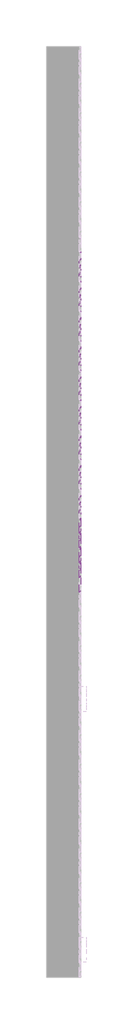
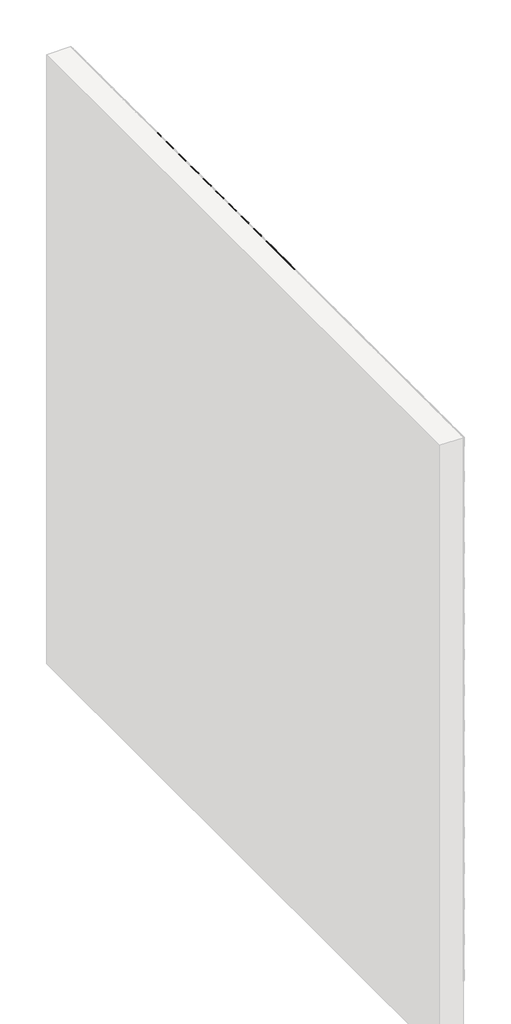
# One storey, part 91 of 121: 144 proxies.
"""IFC4 building model written with IfcOpenShell, lengths in millimetres."""

from ifc_helpers import new_model, si_unit, origin, place, context, project, spatial, transform, mapped, element, save
from components import generic_models_b2b2c5c1, generic_models_9bf73f6f, generic_models_5d175859, generic_models_65d4feed, generic_models_3c364290, generic_models_b652511d

model = new_model("IFC4")

# Units and contexts
model_context = context("Model", 3, world=origin())
ifc_project = project(units=[si_unit("LENGTHUNIT", "METRE", prefix="MILLI")], contexts=[model_context])

# Site, building, storey
site = spatial("IfcSite", under=ifc_project)
building = spatial("IfcBuilding", under=site)
storey = spatial("IfcBuildingStorey", under=building, Name="PORTOBELLO - SHOWROOM", Elevation=0.0)

# Proxies
placement = place(None, origin())
generic_models_shape = generic_models_b2b2c5c1(model_context)
element("IfcBuildingElementProxy", 1, Name="PBSHOP - CUBICA PISTACHE 4,8X8,3 : CUBICA PISTACHE - POSIÇÃO 01", ObjectType="PBSHOP - CUBICA PISTACHE 4,8X8,3 : CUBICA PISTACHE - POSIÇÃO 01", at=placement, inside=storey, context=model_context, shape_type="MappedRepresentation", body=[
    mapped(generic_models_shape, transform((150369.5341846, 14704.1723997, 2407.461318), x_axis=(0.0, 1.0, 0.0), y_axis=(0.0, 0.0, 1.0), z_axis=(1.0, 0.0, 0.0))),
])
element("IfcBuildingElementProxy", 2, Name="PBSHOP - CUBICA PISTACHE 4,8X8,3 : CUBICA PISTACHE - POSIÇÃO 01", ObjectType="PBSHOP - CUBICA PISTACHE 4,8X8,3 : CUBICA PISTACHE - POSIÇÃO 01", at=placement, inside=storey, context=model_context, shape_type="MappedRepresentation", body=[
    mapped(generic_models_shape, transform((150369.5341846, 14795.0116689, 2407.461318), x_axis=(0.0, 1.0, 0.0), y_axis=(0.0, 0.0, 1.0), z_axis=(1.0, 0.0, 0.0))),
])
element("IfcBuildingElementProxy", 3, Name="PBSHOP - CUBICA PISTACHE 4,8X8,3 : CUBICA PISTACHE - POSIÇÃO 01", ObjectType="PBSHOP - CUBICA PISTACHE 4,8X8,3 : CUBICA PISTACHE - POSIÇÃO 01", at=placement, inside=storey, context=model_context, shape_type="MappedRepresentation", body=[
    mapped(generic_models_shape, transform((150369.5341846, 14885.8509382, 2407.461318), x_axis=(0.0, 1.0, 0.0), y_axis=(0.0, 0.0, 1.0), z_axis=(1.0, 0.0, 0.0))),
])
element("IfcBuildingElementProxy", 4, Name="PBSHOP - CUBICA PISTACHE 4,8X8,3 : CUBICA PISTACHE - POSIÇÃO 01", ObjectType="PBSHOP - CUBICA PISTACHE 4,8X8,3 : CUBICA PISTACHE - POSIÇÃO 01", at=placement, inside=storey, context=model_context, shape_type="MappedRepresentation", body=[
    mapped(generic_models_shape, transform((150369.5341846, 14976.6902074, 2407.461318), x_axis=(0.0, 1.0, 0.0), y_axis=(0.0, 0.0, 1.0), z_axis=(1.0, 0.0, 0.0))),
])
element("IfcBuildingElementProxy", 5, Name="PBSHOP - CUBICA PISTACHE 4,8X8,3 : CUBICA PISTACHE - POSIÇÃO 01", ObjectType="PBSHOP - CUBICA PISTACHE 4,8X8,3 : CUBICA PISTACHE - POSIÇÃO 01", at=placement, inside=storey, context=model_context, shape_type="MappedRepresentation", body=[
    mapped(generic_models_shape, transform((150369.5341846, 14022.8778804, 2486.3959564), x_axis=(0.0, 1.0, 0.0), y_axis=(0.0, 0.0, 1.0), z_axis=(1.0, 0.0, 0.0))),
])
element("IfcBuildingElementProxy", 6, Name="PBSHOP - CUBICA PISTACHE 4,8X8,3 : CUBICA PISTACHE - POSIÇÃO 01", ObjectType="PBSHOP - CUBICA PISTACHE 4,8X8,3 : CUBICA PISTACHE - POSIÇÃO 01", at=placement, inside=storey, context=model_context, shape_type="MappedRepresentation", body=[
    mapped(generic_models_shape, transform((150369.5341846, 14113.7171496, 2486.3959564), x_axis=(0.0, 1.0, 0.0), y_axis=(0.0, 0.0, 1.0), z_axis=(1.0, 0.0, 0.0))),
])
element("IfcBuildingElementProxy", 7, Name="PBSHOP - CUBICA PISTACHE 4,8X8,3 : CUBICA PISTACHE - POSIÇÃO 01", ObjectType="PBSHOP - CUBICA PISTACHE 4,8X8,3 : CUBICA PISTACHE - POSIÇÃO 01", at=placement, inside=storey, context=model_context, shape_type="MappedRepresentation", body=[
    mapped(generic_models_shape, transform((150369.5341846, 14204.5564189, 2486.3959564), x_axis=(0.0, 1.0, 0.0), y_axis=(0.0, 0.0, 1.0), z_axis=(1.0, 0.0, 0.0))),
])
element("IfcBuildingElementProxy", 8, Name="PBSHOP - CUBICA PISTACHE 4,8X8,3 : CUBICA PISTACHE - POSIÇÃO 01", ObjectType="PBSHOP - CUBICA PISTACHE 4,8X8,3 : CUBICA PISTACHE - POSIÇÃO 01", at=placement, inside=storey, context=model_context, shape_type="MappedRepresentation", body=[
    mapped(generic_models_shape, transform((150369.5341846, 14295.3956881, 2486.3959564), x_axis=(0.0, 1.0, 0.0), y_axis=(0.0, 0.0, 1.0), z_axis=(1.0, 0.0, 0.0))),
])
element("IfcBuildingElementProxy", 9, Name="PBSHOP - CUBICA PISTACHE 4,8X8,3 : CUBICA PISTACHE - POSIÇÃO 01", ObjectType="PBSHOP - CUBICA PISTACHE 4,8X8,3 : CUBICA PISTACHE - POSIÇÃO 01", at=placement, inside=storey, context=model_context, shape_type="MappedRepresentation", body=[
    mapped(generic_models_shape, transform((150369.5341846, 14386.2349573, 2486.3959564), x_axis=(0.0, 1.0, 0.0), y_axis=(0.0, 0.0, 1.0), z_axis=(1.0, 0.0, 0.0))),
])
element("IfcBuildingElementProxy", 10, Name="PBSHOP - CUBICA PISTACHE 4,8X8,3 : CUBICA PISTACHE - POSIÇÃO 01", ObjectType="PBSHOP - CUBICA PISTACHE 4,8X8,3 : CUBICA PISTACHE - POSIÇÃO 01", at=placement, inside=storey, context=model_context, shape_type="MappedRepresentation", body=[
    mapped(generic_models_shape, transform((150369.5341846, 14477.0742266, 2486.3959564), x_axis=(0.0, 1.0, 0.0), y_axis=(0.0, 0.0, 1.0), z_axis=(1.0, 0.0, 0.0))),
])
element("IfcBuildingElementProxy", 11, Name="PBSHOP - CUBICA PISTACHE 4,8X8,3 : CUBICA PISTACHE - POSIÇÃO 01", ObjectType="PBSHOP - CUBICA PISTACHE 4,8X8,3 : CUBICA PISTACHE - POSIÇÃO 01", at=placement, inside=storey, context=model_context, shape_type="MappedRepresentation", body=[
    mapped(generic_models_shape, transform((150369.5341846, 14567.9134958, 2486.3959564), x_axis=(0.0, 1.0, 0.0), y_axis=(0.0, 0.0, 1.0), z_axis=(1.0, 0.0, 0.0))),
])
element("IfcBuildingElementProxy", 12, Name="PBSHOP - CUBICA PISTACHE 4,8X8,3 : CUBICA PISTACHE - POSIÇÃO 01", ObjectType="PBSHOP - CUBICA PISTACHE 4,8X8,3 : CUBICA PISTACHE - POSIÇÃO 01", at=placement, inside=storey, context=model_context, shape_type="MappedRepresentation", body=[
    mapped(generic_models_shape, transform((150369.5341846, 14658.7527651, 2486.3959564), x_axis=(0.0, 1.0, 0.0), y_axis=(0.0, 0.0, 1.0), z_axis=(1.0, 0.0, 0.0))),
])
element("IfcBuildingElementProxy", 13, Name="PBSHOP - CUBICA PISTACHE 4,8X8,3 : CUBICA PISTACHE - POSIÇÃO 01", ObjectType="PBSHOP - CUBICA PISTACHE 4,8X8,3 : CUBICA PISTACHE - POSIÇÃO 01", at=placement, inside=storey, context=model_context, shape_type="MappedRepresentation", body=[
    mapped(generic_models_shape, transform((150369.5341846, 14749.5920343, 2486.3959564), x_axis=(0.0, 1.0, 0.0), y_axis=(0.0, 0.0, 1.0), z_axis=(1.0, 0.0, 0.0))),
])
element("IfcBuildingElementProxy", 14, Name="PBSHOP - CUBICA PISTACHE 4,8X8,3 : CUBICA PISTACHE - POSIÇÃO 01", ObjectType="PBSHOP - CUBICA PISTACHE 4,8X8,3 : CUBICA PISTACHE - POSIÇÃO 01", at=placement, inside=storey, context=model_context, shape_type="MappedRepresentation", body=[
    mapped(generic_models_shape, transform((150369.5341846, 14840.4313036, 2486.3959564), x_axis=(0.0, 1.0, 0.0), y_axis=(0.0, 0.0, 1.0), z_axis=(1.0, 0.0, 0.0))),
])
element("IfcBuildingElementProxy", 15, Name="PBSHOP - CUBICA PISTACHE 4,8X8,3 : CUBICA PISTACHE - POSIÇÃO 01", ObjectType="PBSHOP - CUBICA PISTACHE 4,8X8,3 : CUBICA PISTACHE - POSIÇÃO 01", at=placement, inside=storey, context=model_context, shape_type="MappedRepresentation", body=[
    mapped(generic_models_shape, transform((150369.5341846, 14931.2705728, 2486.3959564), x_axis=(0.0, 1.0, 0.0), y_axis=(0.0, 0.0, 1.0), z_axis=(1.0, 0.0, 0.0))),
])
element("IfcBuildingElementProxy", 16, Name="PBSHOP - CUBICA PISTACHE 4,8X8,3 : CUBICA PISTACHE - POSIÇÃO 01", ObjectType="PBSHOP - CUBICA PISTACHE 4,8X8,3 : CUBICA PISTACHE - POSIÇÃO 01", at=placement, inside=storey, context=model_context, shape_type="MappedRepresentation", body=[
    mapped(generic_models_shape, transform((150369.5341846, 14068.297515, 2565.3305948), x_axis=(0.0, 1.0, 0.0), y_axis=(0.0, 0.0, 1.0), z_axis=(1.0, 0.0, 0.0))),
])
element("IfcBuildingElementProxy", 17, Name="PBSHOP - CUBICA PISTACHE 4,8X8,3 : CUBICA PISTACHE - POSIÇÃO 01", ObjectType="PBSHOP - CUBICA PISTACHE 4,8X8,3 : CUBICA PISTACHE - POSIÇÃO 01", at=placement, inside=storey, context=model_context, shape_type="MappedRepresentation", body=[
    mapped(generic_models_shape, transform((150369.5341846, 14159.1367842, 2565.3305948), x_axis=(0.0, 1.0, 0.0), y_axis=(0.0, 0.0, 1.0), z_axis=(1.0, 0.0, 0.0))),
])
element("IfcBuildingElementProxy", 18, Name="PBSHOP - CUBICA PISTACHE 4,8X8,3 : CUBICA PISTACHE - POSIÇÃO 01", ObjectType="PBSHOP - CUBICA PISTACHE 4,8X8,3 : CUBICA PISTACHE - POSIÇÃO 01", at=placement, inside=storey, context=model_context, shape_type="MappedRepresentation", body=[
    mapped(generic_models_shape, transform((150369.5341846, 14249.9760535, 2565.3305948), x_axis=(0.0, 1.0, 0.0), y_axis=(0.0, 0.0, 1.0), z_axis=(1.0, 0.0, 0.0))),
])
element("IfcBuildingElementProxy", 19, Name="PBSHOP - CUBICA PISTACHE 4,8X8,3 : CUBICA PISTACHE - POSIÇÃO 01", ObjectType="PBSHOP - CUBICA PISTACHE 4,8X8,3 : CUBICA PISTACHE - POSIÇÃO 01", at=placement, inside=storey, context=model_context, shape_type="MappedRepresentation", body=[
    mapped(generic_models_shape, transform((150369.5341846, 14340.8153227, 2565.3305948), x_axis=(0.0, 1.0, 0.0), y_axis=(0.0, 0.0, 1.0), z_axis=(1.0, 0.0, 0.0))),
])
element("IfcBuildingElementProxy", 20, Name="PBSHOP - CUBICA PISTACHE 4,8X8,3 : CUBICA PISTACHE - POSIÇÃO 01", ObjectType="PBSHOP - CUBICA PISTACHE 4,8X8,3 : CUBICA PISTACHE - POSIÇÃO 01", at=placement, inside=storey, context=model_context, shape_type="MappedRepresentation", body=[
    mapped(generic_models_shape, transform((150369.5341846, 14431.654592, 2565.3305948), x_axis=(0.0, 1.0, 0.0), y_axis=(0.0, 0.0, 1.0), z_axis=(1.0, 0.0, 0.0))),
])
element("IfcBuildingElementProxy", 21, Name="PBSHOP - CUBICA PISTACHE 4,8X8,3 : CUBICA PISTACHE - POSIÇÃO 01", ObjectType="PBSHOP - CUBICA PISTACHE 4,8X8,3 : CUBICA PISTACHE - POSIÇÃO 01", at=placement, inside=storey, context=model_context, shape_type="MappedRepresentation", body=[
    mapped(generic_models_shape, transform((150369.5341846, 14522.4938612, 2565.3305948), x_axis=(0.0, 1.0, 0.0), y_axis=(0.0, 0.0, 1.0), z_axis=(1.0, 0.0, 0.0))),
])
element("IfcBuildingElementProxy", 22, Name="PBSHOP - CUBICA PISTACHE 4,8X8,3 : CUBICA PISTACHE - POSIÇÃO 01", ObjectType="PBSHOP - CUBICA PISTACHE 4,8X8,3 : CUBICA PISTACHE - POSIÇÃO 01", at=placement, inside=storey, context=model_context, shape_type="MappedRepresentation", body=[
    mapped(generic_models_shape, transform((150369.5341846, 14613.3331304, 2565.3305948), x_axis=(0.0, 1.0, 0.0), y_axis=(0.0, 0.0, 1.0), z_axis=(1.0, 0.0, 0.0))),
])
element("IfcBuildingElementProxy", 23, Name="PBSHOP - CUBICA PISTACHE 4,8X8,3 : CUBICA PISTACHE - POSIÇÃO 01", ObjectType="PBSHOP - CUBICA PISTACHE 4,8X8,3 : CUBICA PISTACHE - POSIÇÃO 01", at=placement, inside=storey, context=model_context, shape_type="MappedRepresentation", body=[
    mapped(generic_models_shape, transform((150369.5341846, 14704.1723997, 2565.3305948), x_axis=(0.0, 1.0, 0.0), y_axis=(0.0, 0.0, 1.0), z_axis=(1.0, 0.0, 0.0))),
])
element("IfcBuildingElementProxy", 24, Name="PBSHOP - CUBICA PISTACHE 4,8X8,3 : CUBICA PISTACHE - POSIÇÃO 01", ObjectType="PBSHOP - CUBICA PISTACHE 4,8X8,3 : CUBICA PISTACHE - POSIÇÃO 01", at=placement, inside=storey, context=model_context, shape_type="MappedRepresentation", body=[
    mapped(generic_models_shape, transform((150369.5341846, 14795.0116689, 2565.3305948), x_axis=(0.0, 1.0, 0.0), y_axis=(0.0, 0.0, 1.0), z_axis=(1.0, 0.0, 0.0))),
])
element("IfcBuildingElementProxy", 25, Name="PBSHOP - CUBICA PISTACHE 4,8X8,3 : CUBICA PISTACHE - POSIÇÃO 01", ObjectType="PBSHOP - CUBICA PISTACHE 4,8X8,3 : CUBICA PISTACHE - POSIÇÃO 01", at=placement, inside=storey, context=model_context, shape_type="MappedRepresentation", body=[
    mapped(generic_models_shape, transform((150369.5341846, 14885.8509382, 2565.3305948), x_axis=(0.0, 1.0, 0.0), y_axis=(0.0, 0.0, 1.0), z_axis=(1.0, 0.0, 0.0))),
])
element("IfcBuildingElementProxy", 26, Name="PBSHOP - CUBICA PISTACHE 4,8X8,3 : CUBICA PISTACHE - POSIÇÃO 01", ObjectType="PBSHOP - CUBICA PISTACHE 4,8X8,3 : CUBICA PISTACHE - POSIÇÃO 01", at=placement, inside=storey, context=model_context, shape_type="MappedRepresentation", body=[
    mapped(generic_models_shape, transform((150369.5341846, 14976.6902074, 2565.3305948), x_axis=(0.0, 1.0, 0.0), y_axis=(0.0, 0.0, 1.0), z_axis=(1.0, 0.0, 0.0))),
])
element("IfcBuildingElementProxy", 27, Name="PBSHOP - CUBICA PISTACHE 4,8X8,3 : CUBICA PISTACHE - POSIÇÃO 01", ObjectType="PBSHOP - CUBICA PISTACHE 4,8X8,3 : CUBICA PISTACHE - POSIÇÃO 01", at=placement, inside=storey, context=model_context, shape_type="MappedRepresentation", body=[
    mapped(generic_models_shape, transform((150369.5341846, 14022.8778804, 2644.2652332), x_axis=(0.0, 1.0, 0.0), y_axis=(0.0, 0.0, 1.0), z_axis=(1.0, 0.0, 0.0))),
])
element("IfcBuildingElementProxy", 28, Name="PBSHOP - CUBICA PISTACHE 4,8X8,3 : CUBICA PISTACHE - POSIÇÃO 01", ObjectType="PBSHOP - CUBICA PISTACHE 4,8X8,3 : CUBICA PISTACHE - POSIÇÃO 01", at=placement, inside=storey, context=model_context, shape_type="MappedRepresentation", body=[
    mapped(generic_models_shape, transform((150369.5341846, 14113.7171496, 2644.2652332), x_axis=(0.0, 1.0, 0.0), y_axis=(0.0, 0.0, 1.0), z_axis=(1.0, 0.0, 0.0))),
])
element("IfcBuildingElementProxy", 29, Name="PBSHOP - CUBICA PISTACHE 4,8X8,3 : CUBICA PISTACHE - POSIÇÃO 01", ObjectType="PBSHOP - CUBICA PISTACHE 4,8X8,3 : CUBICA PISTACHE - POSIÇÃO 01", at=placement, inside=storey, context=model_context, shape_type="MappedRepresentation", body=[
    mapped(generic_models_shape, transform((150369.5341846, 14204.5564189, 2644.2652332), x_axis=(0.0, 1.0, 0.0), y_axis=(0.0, 0.0, 1.0), z_axis=(1.0, 0.0, 0.0))),
])
element("IfcBuildingElementProxy", 30, Name="PBSHOP - CUBICA PISTACHE 4,8X8,3 : CUBICA PISTACHE - POSIÇÃO 01", ObjectType="PBSHOP - CUBICA PISTACHE 4,8X8,3 : CUBICA PISTACHE - POSIÇÃO 01", at=placement, inside=storey, context=model_context, shape_type="MappedRepresentation", body=[
    mapped(generic_models_shape, transform((150369.5341846, 14295.3956881, 2644.2652332), x_axis=(0.0, 1.0, 0.0), y_axis=(0.0, 0.0, 1.0), z_axis=(1.0, 0.0, 0.0))),
])
element("IfcBuildingElementProxy", 31, Name="PBSHOP - CUBICA PISTACHE 4,8X8,3 : CUBICA PISTACHE - POSIÇÃO 01", ObjectType="PBSHOP - CUBICA PISTACHE 4,8X8,3 : CUBICA PISTACHE - POSIÇÃO 01", at=placement, inside=storey, context=model_context, shape_type="MappedRepresentation", body=[
    mapped(generic_models_shape, transform((150369.5341846, 14386.2349573, 2644.2652332), x_axis=(0.0, 1.0, 0.0), y_axis=(0.0, 0.0, 1.0), z_axis=(1.0, 0.0, 0.0))),
])
element("IfcBuildingElementProxy", 32, Name="PBSHOP - CUBICA PISTACHE 4,8X8,3 : CUBICA PISTACHE - POSIÇÃO 01", ObjectType="PBSHOP - CUBICA PISTACHE 4,8X8,3 : CUBICA PISTACHE - POSIÇÃO 01", at=placement, inside=storey, context=model_context, shape_type="MappedRepresentation", body=[
    mapped(generic_models_shape, transform((150369.5341846, 14477.0742266, 2644.2652332), x_axis=(0.0, 1.0, 0.0), y_axis=(0.0, 0.0, 1.0), z_axis=(1.0, 0.0, 0.0))),
])
element("IfcBuildingElementProxy", 33, Name="PBSHOP - CUBICA PISTACHE 4,8X8,3 : CUBICA PISTACHE - POSIÇÃO 01", ObjectType="PBSHOP - CUBICA PISTACHE 4,8X8,3 : CUBICA PISTACHE - POSIÇÃO 01", at=placement, inside=storey, context=model_context, shape_type="MappedRepresentation", body=[
    mapped(generic_models_shape, transform((150369.5341846, 14567.9134958, 2644.2652332), x_axis=(0.0, 1.0, 0.0), y_axis=(0.0, 0.0, 1.0), z_axis=(1.0, 0.0, 0.0))),
])
element("IfcBuildingElementProxy", 34, Name="PBSHOP - CUBICA PISTACHE 4,8X8,3 : CUBICA PISTACHE - POSIÇÃO 01", ObjectType="PBSHOP - CUBICA PISTACHE 4,8X8,3 : CUBICA PISTACHE - POSIÇÃO 01", at=placement, inside=storey, context=model_context, shape_type="MappedRepresentation", body=[
    mapped(generic_models_shape, transform((150369.5341846, 14658.7527651, 2644.2652332), x_axis=(0.0, 1.0, 0.0), y_axis=(0.0, 0.0, 1.0), z_axis=(1.0, 0.0, 0.0))),
])
element("IfcBuildingElementProxy", 35, Name="PBSHOP - CUBICA PISTACHE 4,8X8,3 : CUBICA PISTACHE - POSIÇÃO 01", ObjectType="PBSHOP - CUBICA PISTACHE 4,8X8,3 : CUBICA PISTACHE - POSIÇÃO 01", at=placement, inside=storey, context=model_context, shape_type="MappedRepresentation", body=[
    mapped(generic_models_shape, transform((150369.5341846, 14749.5920343, 2644.2652332), x_axis=(0.0, 1.0, 0.0), y_axis=(0.0, 0.0, 1.0), z_axis=(1.0, 0.0, 0.0))),
])
element("IfcBuildingElementProxy", 36, Name="PBSHOP - CUBICA PISTACHE 4,8X8,3 : CUBICA PISTACHE - POSIÇÃO 01", ObjectType="PBSHOP - CUBICA PISTACHE 4,8X8,3 : CUBICA PISTACHE - POSIÇÃO 01", at=placement, inside=storey, context=model_context, shape_type="MappedRepresentation", body=[
    mapped(generic_models_shape, transform((150369.5341846, 14840.4313036, 2644.2652332), x_axis=(0.0, 1.0, 0.0), y_axis=(0.0, 0.0, 1.0), z_axis=(1.0, 0.0, 0.0))),
])
element("IfcBuildingElementProxy", 37, Name="PBSHOP - CUBICA PISTACHE 4,8X8,3 : CUBICA PISTACHE - POSIÇÃO 01", ObjectType="PBSHOP - CUBICA PISTACHE 4,8X8,3 : CUBICA PISTACHE - POSIÇÃO 01", at=placement, inside=storey, context=model_context, shape_type="MappedRepresentation", body=[
    mapped(generic_models_shape, transform((150369.5341846, 14931.2705728, 2644.2652332), x_axis=(0.0, 1.0, 0.0), y_axis=(0.0, 0.0, 1.0), z_axis=(1.0, 0.0, 0.0))),
])
generic_models_2_shape = generic_models_9bf73f6f(model_context)
element("IfcBuildingElementProxy", 38, Name="PBSHOP - CUBICA PISTACHE 4,8X8,3 : CUBICA PISTACHE - POSIÇÃO 03", ObjectType="PBSHOP - CUBICA PISTACHE 4,8X8,3 : CUBICA PISTACHE - POSIÇÃO 03", at=placement, inside=storey, context=model_context, shape_type="MappedRepresentation", body=[
    mapped(generic_models_2_shape, transform((150369.5341846, 14045.5898568, 2367.9527884), x_axis=(0.0, 1.0, 0.0), y_axis=(0.0, 0.0, 1.0), z_axis=(1.0, 0.0, 0.0))),
])
element("IfcBuildingElementProxy", 39, Name="PBSHOP - CUBICA PISTACHE 4,8X8,3 : CUBICA PISTACHE - POSIÇÃO 03", ObjectType="PBSHOP - CUBICA PISTACHE 4,8X8,3 : CUBICA PISTACHE - POSIÇÃO 03", at=placement, inside=storey, context=model_context, shape_type="MappedRepresentation", body=[
    mapped(generic_models_2_shape, transform((150369.5341846, 14136.4291261, 2367.9527884), x_axis=(0.0, 1.0, 0.0), y_axis=(0.0, 0.0, 1.0), z_axis=(1.0, 0.0, 0.0))),
])
element("IfcBuildingElementProxy", 40, Name="PBSHOP - CUBICA PISTACHE 4,8X8,3 : CUBICA PISTACHE - POSIÇÃO 03", ObjectType="PBSHOP - CUBICA PISTACHE 4,8X8,3 : CUBICA PISTACHE - POSIÇÃO 03", at=placement, inside=storey, context=model_context, shape_type="MappedRepresentation", body=[
    mapped(generic_models_2_shape, transform((150369.5341846, 14227.2683953, 2367.9527884), x_axis=(0.0, 1.0, 0.0), y_axis=(0.0, 0.0, 1.0), z_axis=(1.0, 0.0, 0.0))),
])
element("IfcBuildingElementProxy", 41, Name="PBSHOP - CUBICA PISTACHE 4,8X8,3 : CUBICA PISTACHE - POSIÇÃO 03", ObjectType="PBSHOP - CUBICA PISTACHE 4,8X8,3 : CUBICA PISTACHE - POSIÇÃO 03", at=placement, inside=storey, context=model_context, shape_type="MappedRepresentation", body=[
    mapped(generic_models_2_shape, transform((150369.5341846, 14318.1076646, 2367.9527884), x_axis=(0.0, 1.0, 0.0), y_axis=(0.0, 0.0, 1.0), z_axis=(1.0, 0.0, 0.0))),
])
element("IfcBuildingElementProxy", 42, Name="PBSHOP - CUBICA PISTACHE 4,8X8,3 : CUBICA PISTACHE - POSIÇÃO 03", ObjectType="PBSHOP - CUBICA PISTACHE 4,8X8,3 : CUBICA PISTACHE - POSIÇÃO 03", at=placement, inside=storey, context=model_context, shape_type="MappedRepresentation", body=[
    mapped(generic_models_2_shape, transform((150369.5341846, 14408.9469338, 2367.9527884), x_axis=(0.0, 1.0, 0.0), y_axis=(0.0, 0.0, 1.0), z_axis=(1.0, 0.0, 0.0))),
])
element("IfcBuildingElementProxy", 43, Name="PBSHOP - CUBICA PISTACHE 4,8X8,3 : CUBICA PISTACHE - POSIÇÃO 03", ObjectType="PBSHOP - CUBICA PISTACHE 4,8X8,3 : CUBICA PISTACHE - POSIÇÃO 03", at=placement, inside=storey, context=model_context, shape_type="MappedRepresentation", body=[
    mapped(generic_models_2_shape, transform((150369.5341846, 14499.7862031, 2367.9527884), x_axis=(0.0, 1.0, 0.0), y_axis=(0.0, 0.0, 1.0), z_axis=(1.0, 0.0, 0.0))),
])
element("IfcBuildingElementProxy", 44, Name="PBSHOP - CUBICA PISTACHE 4,8X8,3 : CUBICA PISTACHE - POSIÇÃO 03", ObjectType="PBSHOP - CUBICA PISTACHE 4,8X8,3 : CUBICA PISTACHE - POSIÇÃO 03", at=placement, inside=storey, context=model_context, shape_type="MappedRepresentation", body=[
    mapped(generic_models_2_shape, transform((150369.5341846, 14590.6254723, 2367.9527884), x_axis=(0.0, 1.0, 0.0), y_axis=(0.0, 0.0, 1.0), z_axis=(1.0, 0.0, 0.0))),
])
element("IfcBuildingElementProxy", 45, Name="PBSHOP - CUBICA PISTACHE 4,8X8,3 : CUBICA PISTACHE - POSIÇÃO 03", ObjectType="PBSHOP - CUBICA PISTACHE 4,8X8,3 : CUBICA PISTACHE - POSIÇÃO 03", at=placement, inside=storey, context=model_context, shape_type="MappedRepresentation", body=[
    mapped(generic_models_2_shape, transform((150369.5341846, 14681.4647415, 2367.9527884), x_axis=(0.0, 1.0, 0.0), y_axis=(0.0, 0.0, 1.0), z_axis=(1.0, 0.0, 0.0))),
])
element("IfcBuildingElementProxy", 46, Name="PBSHOP - CUBICA PISTACHE 4,8X8,3 : CUBICA PISTACHE - POSIÇÃO 03", ObjectType="PBSHOP - CUBICA PISTACHE 4,8X8,3 : CUBICA PISTACHE - POSIÇÃO 03", at=placement, inside=storey, context=model_context, shape_type="MappedRepresentation", body=[
    mapped(generic_models_2_shape, transform((150369.5341846, 14772.3040108, 2367.9527884), x_axis=(0.0, 1.0, 0.0), y_axis=(0.0, 0.0, 1.0), z_axis=(1.0, 0.0, 0.0))),
])
element("IfcBuildingElementProxy", 47, Name="PBSHOP - CUBICA PISTACHE 4,8X8,3 : CUBICA PISTACHE - POSIÇÃO 03", ObjectType="PBSHOP - CUBICA PISTACHE 4,8X8,3 : CUBICA PISTACHE - POSIÇÃO 03", at=placement, inside=storey, context=model_context, shape_type="MappedRepresentation", body=[
    mapped(generic_models_2_shape, transform((150369.5341846, 14863.14328, 2367.9527884), x_axis=(0.0, 1.0, 0.0), y_axis=(0.0, 0.0, 1.0), z_axis=(1.0, 0.0, 0.0))),
])
element("IfcBuildingElementProxy", 48, Name="PBSHOP - CUBICA PISTACHE 4,8X8,3 : CUBICA PISTACHE - POSIÇÃO 03", ObjectType="PBSHOP - CUBICA PISTACHE 4,8X8,3 : CUBICA PISTACHE - POSIÇÃO 03", at=placement, inside=storey, context=model_context, shape_type="MappedRepresentation", body=[
    mapped(generic_models_2_shape, transform((150369.5341846, 14953.9825493, 2367.9527884), x_axis=(0.0, 1.0, 0.0), y_axis=(0.0, 0.0, 1.0), z_axis=(1.0, 0.0, 0.0))),
])
element("IfcBuildingElementProxy", 49, Name="PBSHOP - CUBICA PISTACHE 4,8X8,3 : CUBICA PISTACHE - POSIÇÃO 03", ObjectType="PBSHOP - CUBICA PISTACHE 4,8X8,3 : CUBICA PISTACHE - POSIÇÃO 03", at=placement, inside=storey, context=model_context, shape_type="MappedRepresentation", body=[
    mapped(generic_models_2_shape, transform((150369.5341846, 14000.1702222, 2446.8874268), x_axis=(0.0, 1.0, 0.0), y_axis=(0.0, 0.0, 1.0), z_axis=(1.0, 0.0, 0.0))),
])
element("IfcBuildingElementProxy", 50, Name="PBSHOP - CUBICA PISTACHE 4,8X8,3 : CUBICA PISTACHE - POSIÇÃO 03", ObjectType="PBSHOP - CUBICA PISTACHE 4,8X8,3 : CUBICA PISTACHE - POSIÇÃO 03", at=placement, inside=storey, context=model_context, shape_type="MappedRepresentation", body=[
    mapped(generic_models_2_shape, transform((150369.5341846, 14091.0094915, 2446.8874268), x_axis=(0.0, 1.0, 0.0), y_axis=(0.0, 0.0, 1.0), z_axis=(1.0, 0.0, 0.0))),
])
element("IfcBuildingElementProxy", 51, Name="PBSHOP - CUBICA PISTACHE 4,8X8,3 : CUBICA PISTACHE - POSIÇÃO 03", ObjectType="PBSHOP - CUBICA PISTACHE 4,8X8,3 : CUBICA PISTACHE - POSIÇÃO 03", at=placement, inside=storey, context=model_context, shape_type="MappedRepresentation", body=[
    mapped(generic_models_2_shape, transform((150369.5341846, 14181.8487607, 2446.8874268), x_axis=(0.0, 1.0, 0.0), y_axis=(0.0, 0.0, 1.0), z_axis=(1.0, 0.0, 0.0))),
])
element("IfcBuildingElementProxy", 52, Name="PBSHOP - CUBICA PISTACHE 4,8X8,3 : CUBICA PISTACHE - POSIÇÃO 03", ObjectType="PBSHOP - CUBICA PISTACHE 4,8X8,3 : CUBICA PISTACHE - POSIÇÃO 03", at=placement, inside=storey, context=model_context, shape_type="MappedRepresentation", body=[
    mapped(generic_models_2_shape, transform((150369.5341846, 14272.6880299, 2446.8874268), x_axis=(0.0, 1.0, 0.0), y_axis=(0.0, 0.0, 1.0), z_axis=(1.0, 0.0, 0.0))),
])
element("IfcBuildingElementProxy", 53, Name="PBSHOP - CUBICA PISTACHE 4,8X8,3 : CUBICA PISTACHE - POSIÇÃO 03", ObjectType="PBSHOP - CUBICA PISTACHE 4,8X8,3 : CUBICA PISTACHE - POSIÇÃO 03", at=placement, inside=storey, context=model_context, shape_type="MappedRepresentation", body=[
    mapped(generic_models_2_shape, transform((150369.5341846, 14363.5272992, 2446.8874268), x_axis=(0.0, 1.0, 0.0), y_axis=(0.0, 0.0, 1.0), z_axis=(1.0, 0.0, 0.0))),
])
element("IfcBuildingElementProxy", 54, Name="PBSHOP - CUBICA PISTACHE 4,8X8,3 : CUBICA PISTACHE - POSIÇÃO 03", ObjectType="PBSHOP - CUBICA PISTACHE 4,8X8,3 : CUBICA PISTACHE - POSIÇÃO 03", at=placement, inside=storey, context=model_context, shape_type="MappedRepresentation", body=[
    mapped(generic_models_2_shape, transform((150369.5341846, 14454.3665684, 2446.8874268), x_axis=(0.0, 1.0, 0.0), y_axis=(0.0, 0.0, 1.0), z_axis=(1.0, 0.0, 0.0))),
])
element("IfcBuildingElementProxy", 55, Name="PBSHOP - CUBICA PISTACHE 4,8X8,3 : CUBICA PISTACHE - POSIÇÃO 03", ObjectType="PBSHOP - CUBICA PISTACHE 4,8X8,3 : CUBICA PISTACHE - POSIÇÃO 03", at=placement, inside=storey, context=model_context, shape_type="MappedRepresentation", body=[
    mapped(generic_models_2_shape, transform((150369.5341846, 14545.2058377, 2446.8874268), x_axis=(0.0, 1.0, 0.0), y_axis=(0.0, 0.0, 1.0), z_axis=(1.0, 0.0, 0.0))),
])
element("IfcBuildingElementProxy", 56, Name="PBSHOP - CUBICA PISTACHE 4,8X8,3 : CUBICA PISTACHE - POSIÇÃO 03", ObjectType="PBSHOP - CUBICA PISTACHE 4,8X8,3 : CUBICA PISTACHE - POSIÇÃO 03", at=placement, inside=storey, context=model_context, shape_type="MappedRepresentation", body=[
    mapped(generic_models_2_shape, transform((150369.5341846, 14636.0451069, 2446.8874268), x_axis=(0.0, 1.0, 0.0), y_axis=(0.0, 0.0, 1.0), z_axis=(1.0, 0.0, 0.0))),
])
element("IfcBuildingElementProxy", 57, Name="PBSHOP - CUBICA PISTACHE 4,8X8,3 : CUBICA PISTACHE - POSIÇÃO 03", ObjectType="PBSHOP - CUBICA PISTACHE 4,8X8,3 : CUBICA PISTACHE - POSIÇÃO 03", at=placement, inside=storey, context=model_context, shape_type="MappedRepresentation", body=[
    mapped(generic_models_2_shape, transform((150369.5341846, 14726.8843762, 2446.8874268), x_axis=(0.0, 1.0, 0.0), y_axis=(0.0, 0.0, 1.0), z_axis=(1.0, 0.0, 0.0))),
])
element("IfcBuildingElementProxy", 58, Name="PBSHOP - CUBICA PISTACHE 4,8X8,3 : CUBICA PISTACHE - POSIÇÃO 03", ObjectType="PBSHOP - CUBICA PISTACHE 4,8X8,3 : CUBICA PISTACHE - POSIÇÃO 03", at=placement, inside=storey, context=model_context, shape_type="MappedRepresentation", body=[
    mapped(generic_models_2_shape, transform((150369.5341846, 14817.7236454, 2446.8874268), x_axis=(0.0, 1.0, 0.0), y_axis=(0.0, 0.0, 1.0), z_axis=(1.0, 0.0, 0.0))),
])
element("IfcBuildingElementProxy", 59, Name="PBSHOP - CUBICA PISTACHE 4,8X8,3 : CUBICA PISTACHE - POSIÇÃO 03", ObjectType="PBSHOP - CUBICA PISTACHE 4,8X8,3 : CUBICA PISTACHE - POSIÇÃO 03", at=placement, inside=storey, context=model_context, shape_type="MappedRepresentation", body=[
    mapped(generic_models_2_shape, transform((150369.5341846, 14908.5629147, 2446.8874268), x_axis=(0.0, 1.0, 0.0), y_axis=(0.0, 0.0, 1.0), z_axis=(1.0, 0.0, 0.0))),
])
element("IfcBuildingElementProxy", 60, Name="PBSHOP - CUBICA PISTACHE 4,8X8,3 : CUBICA PISTACHE - POSIÇÃO 03", ObjectType="PBSHOP - CUBICA PISTACHE 4,8X8,3 : CUBICA PISTACHE - POSIÇÃO 03", at=placement, inside=storey, context=model_context, shape_type="MappedRepresentation", body=[
    mapped(generic_models_2_shape, transform((150369.5341846, 14999.4021839, 2446.8874268), x_axis=(0.0, 1.0, 0.0), y_axis=(0.0, 0.0, 1.0), z_axis=(1.0, 0.0, 0.0))),
])
element("IfcBuildingElementProxy", 61, Name="PBSHOP - CUBICA PISTACHE 4,8X8,3 : CUBICA PISTACHE - POSIÇÃO 03", ObjectType="PBSHOP - CUBICA PISTACHE 4,8X8,3 : CUBICA PISTACHE - POSIÇÃO 03", at=placement, inside=storey, context=model_context, shape_type="MappedRepresentation", body=[
    mapped(generic_models_2_shape, transform((150369.5341846, 14045.5898568, 2525.8220652), x_axis=(0.0, 1.0, 0.0), y_axis=(0.0, 0.0, 1.0), z_axis=(1.0, 0.0, 0.0))),
])
element("IfcBuildingElementProxy", 62, Name="PBSHOP - CUBICA PISTACHE 4,8X8,3 : CUBICA PISTACHE - POSIÇÃO 03", ObjectType="PBSHOP - CUBICA PISTACHE 4,8X8,3 : CUBICA PISTACHE - POSIÇÃO 03", at=placement, inside=storey, context=model_context, shape_type="MappedRepresentation", body=[
    mapped(generic_models_2_shape, transform((150369.5341846, 14136.4291261, 2525.8220652), x_axis=(0.0, 1.0, 0.0), y_axis=(0.0, 0.0, 1.0), z_axis=(1.0, 0.0, 0.0))),
])
element("IfcBuildingElementProxy", 63, Name="PBSHOP - CUBICA PISTACHE 4,8X8,3 : CUBICA PISTACHE - POSIÇÃO 03", ObjectType="PBSHOP - CUBICA PISTACHE 4,8X8,3 : CUBICA PISTACHE - POSIÇÃO 03", at=placement, inside=storey, context=model_context, shape_type="MappedRepresentation", body=[
    mapped(generic_models_2_shape, transform((150369.5341846, 14227.2683953, 2525.8220652), x_axis=(0.0, 1.0, 0.0), y_axis=(0.0, 0.0, 1.0), z_axis=(1.0, 0.0, 0.0))),
])
element("IfcBuildingElementProxy", 64, Name="PBSHOP - CUBICA PISTACHE 4,8X8,3 : CUBICA PISTACHE - POSIÇÃO 03", ObjectType="PBSHOP - CUBICA PISTACHE 4,8X8,3 : CUBICA PISTACHE - POSIÇÃO 03", at=placement, inside=storey, context=model_context, shape_type="MappedRepresentation", body=[
    mapped(generic_models_2_shape, transform((150369.5341846, 14318.1076646, 2525.8220652), x_axis=(0.0, 1.0, 0.0), y_axis=(0.0, 0.0, 1.0), z_axis=(1.0, 0.0, 0.0))),
])
element("IfcBuildingElementProxy", 65, Name="PBSHOP - CUBICA PISTACHE 4,8X8,3 : CUBICA PISTACHE - POSIÇÃO 03", ObjectType="PBSHOP - CUBICA PISTACHE 4,8X8,3 : CUBICA PISTACHE - POSIÇÃO 03", at=placement, inside=storey, context=model_context, shape_type="MappedRepresentation", body=[
    mapped(generic_models_2_shape, transform((150369.5341846, 14408.9469338, 2525.8220652), x_axis=(0.0, 1.0, 0.0), y_axis=(0.0, 0.0, 1.0), z_axis=(1.0, 0.0, 0.0))),
])
element("IfcBuildingElementProxy", 66, Name="PBSHOP - CUBICA PISTACHE 4,8X8,3 : CUBICA PISTACHE - POSIÇÃO 03", ObjectType="PBSHOP - CUBICA PISTACHE 4,8X8,3 : CUBICA PISTACHE - POSIÇÃO 03", at=placement, inside=storey, context=model_context, shape_type="MappedRepresentation", body=[
    mapped(generic_models_2_shape, transform((150369.5341846, 14499.7862031, 2525.8220652), x_axis=(0.0, 1.0, 0.0), y_axis=(0.0, 0.0, 1.0), z_axis=(1.0, 0.0, 0.0))),
])
element("IfcBuildingElementProxy", 67, Name="PBSHOP - CUBICA PISTACHE 4,8X8,3 : CUBICA PISTACHE - POSIÇÃO 03", ObjectType="PBSHOP - CUBICA PISTACHE 4,8X8,3 : CUBICA PISTACHE - POSIÇÃO 03", at=placement, inside=storey, context=model_context, shape_type="MappedRepresentation", body=[
    mapped(generic_models_2_shape, transform((150369.5341846, 14590.6254723, 2525.8220652), x_axis=(0.0, 1.0, 0.0), y_axis=(0.0, 0.0, 1.0), z_axis=(1.0, 0.0, 0.0))),
])
element("IfcBuildingElementProxy", 68, Name="PBSHOP - CUBICA PISTACHE 4,8X8,3 : CUBICA PISTACHE - POSIÇÃO 03", ObjectType="PBSHOP - CUBICA PISTACHE 4,8X8,3 : CUBICA PISTACHE - POSIÇÃO 03", at=placement, inside=storey, context=model_context, shape_type="MappedRepresentation", body=[
    mapped(generic_models_2_shape, transform((150369.5341846, 14681.4647415, 2525.8220652), x_axis=(0.0, 1.0, 0.0), y_axis=(0.0, 0.0, 1.0), z_axis=(1.0, 0.0, 0.0))),
])
element("IfcBuildingElementProxy", 69, Name="PBSHOP - CUBICA PISTACHE 4,8X8,3 : CUBICA PISTACHE - POSIÇÃO 03", ObjectType="PBSHOP - CUBICA PISTACHE 4,8X8,3 : CUBICA PISTACHE - POSIÇÃO 03", at=placement, inside=storey, context=model_context, shape_type="MappedRepresentation", body=[
    mapped(generic_models_2_shape, transform((150369.5341846, 14772.3040108, 2525.8220652), x_axis=(0.0, 1.0, 0.0), y_axis=(0.0, 0.0, 1.0), z_axis=(1.0, 0.0, 0.0))),
])
element("IfcBuildingElementProxy", 70, Name="PBSHOP - CUBICA PISTACHE 4,8X8,3 : CUBICA PISTACHE - POSIÇÃO 03", ObjectType="PBSHOP - CUBICA PISTACHE 4,8X8,3 : CUBICA PISTACHE - POSIÇÃO 03", at=placement, inside=storey, context=model_context, shape_type="MappedRepresentation", body=[
    mapped(generic_models_2_shape, transform((150369.5341846, 14863.14328, 2525.8220652), x_axis=(0.0, 1.0, 0.0), y_axis=(0.0, 0.0, 1.0), z_axis=(1.0, 0.0, 0.0))),
])
element("IfcBuildingElementProxy", 71, Name="PBSHOP - CUBICA PISTACHE 4,8X8,3 : CUBICA PISTACHE - POSIÇÃO 03", ObjectType="PBSHOP - CUBICA PISTACHE 4,8X8,3 : CUBICA PISTACHE - POSIÇÃO 03", at=placement, inside=storey, context=model_context, shape_type="MappedRepresentation", body=[
    mapped(generic_models_2_shape, transform((150369.5341846, 14953.9825493, 2525.8220652), x_axis=(0.0, 1.0, 0.0), y_axis=(0.0, 0.0, 1.0), z_axis=(1.0, 0.0, 0.0))),
])
element("IfcBuildingElementProxy", 72, Name="PBSHOP - CUBICA PISTACHE 4,8X8,3 : CUBICA PISTACHE - POSIÇÃO 03", ObjectType="PBSHOP - CUBICA PISTACHE 4,8X8,3 : CUBICA PISTACHE - POSIÇÃO 03", at=placement, inside=storey, context=model_context, shape_type="MappedRepresentation", body=[
    mapped(generic_models_2_shape, transform((150369.5341846, 14000.1702222, 2604.7567035), x_axis=(0.0, 1.0, 0.0), y_axis=(0.0, 0.0, 1.0), z_axis=(1.0, 0.0, 0.0))),
])
element("IfcBuildingElementProxy", 73, Name="PBSHOP - CUBICA PISTACHE 4,8X8,3 : CUBICA PISTACHE - POSIÇÃO 03", ObjectType="PBSHOP - CUBICA PISTACHE 4,8X8,3 : CUBICA PISTACHE - POSIÇÃO 03", at=placement, inside=storey, context=model_context, shape_type="MappedRepresentation", body=[
    mapped(generic_models_2_shape, transform((150369.5341846, 14091.0094915, 2604.7567035), x_axis=(0.0, 1.0, 0.0), y_axis=(0.0, 0.0, 1.0), z_axis=(1.0, 0.0, 0.0))),
])
element("IfcBuildingElementProxy", 74, Name="PBSHOP - CUBICA PISTACHE 4,8X8,3 : CUBICA PISTACHE - POSIÇÃO 03", ObjectType="PBSHOP - CUBICA PISTACHE 4,8X8,3 : CUBICA PISTACHE - POSIÇÃO 03", at=placement, inside=storey, context=model_context, shape_type="MappedRepresentation", body=[
    mapped(generic_models_2_shape, transform((150369.5341846, 14181.8487607, 2604.7567035), x_axis=(0.0, 1.0, 0.0), y_axis=(0.0, 0.0, 1.0), z_axis=(1.0, 0.0, 0.0))),
])
element("IfcBuildingElementProxy", 75, Name="PBSHOP - CUBICA PISTACHE 4,8X8,3 : CUBICA PISTACHE - POSIÇÃO 03", ObjectType="PBSHOP - CUBICA PISTACHE 4,8X8,3 : CUBICA PISTACHE - POSIÇÃO 03", at=placement, inside=storey, context=model_context, shape_type="MappedRepresentation", body=[
    mapped(generic_models_2_shape, transform((150369.5341846, 14272.6880299, 2604.7567035), x_axis=(0.0, 1.0, 0.0), y_axis=(0.0, 0.0, 1.0), z_axis=(1.0, 0.0, 0.0))),
])
element("IfcBuildingElementProxy", 76, Name="PBSHOP - CUBICA PISTACHE 4,8X8,3 : CUBICA PISTACHE - POSIÇÃO 03", ObjectType="PBSHOP - CUBICA PISTACHE 4,8X8,3 : CUBICA PISTACHE - POSIÇÃO 03", at=placement, inside=storey, context=model_context, shape_type="MappedRepresentation", body=[
    mapped(generic_models_2_shape, transform((150369.5341846, 14363.5272992, 2604.7567035), x_axis=(0.0, 1.0, 0.0), y_axis=(0.0, 0.0, 1.0), z_axis=(1.0, 0.0, 0.0))),
])
element("IfcBuildingElementProxy", 77, Name="PBSHOP - CUBICA PISTACHE 4,8X8,3 : CUBICA PISTACHE - POSIÇÃO 03", ObjectType="PBSHOP - CUBICA PISTACHE 4,8X8,3 : CUBICA PISTACHE - POSIÇÃO 03", at=placement, inside=storey, context=model_context, shape_type="MappedRepresentation", body=[
    mapped(generic_models_2_shape, transform((150369.5341846, 14454.3665684, 2604.7567035), x_axis=(0.0, 1.0, 0.0), y_axis=(0.0, 0.0, 1.0), z_axis=(1.0, 0.0, 0.0))),
])
element("IfcBuildingElementProxy", 78, Name="PBSHOP - CUBICA PISTACHE 4,8X8,3 : CUBICA PISTACHE - POSIÇÃO 03", ObjectType="PBSHOP - CUBICA PISTACHE 4,8X8,3 : CUBICA PISTACHE - POSIÇÃO 03", at=placement, inside=storey, context=model_context, shape_type="MappedRepresentation", body=[
    mapped(generic_models_2_shape, transform((150369.5341846, 14545.2058377, 2604.7567035), x_axis=(0.0, 1.0, 0.0), y_axis=(0.0, 0.0, 1.0), z_axis=(1.0, 0.0, 0.0))),
])
element("IfcBuildingElementProxy", 79, Name="PBSHOP - CUBICA PISTACHE 4,8X8,3 : CUBICA PISTACHE - POSIÇÃO 03", ObjectType="PBSHOP - CUBICA PISTACHE 4,8X8,3 : CUBICA PISTACHE - POSIÇÃO 03", at=placement, inside=storey, context=model_context, shape_type="MappedRepresentation", body=[
    mapped(generic_models_2_shape, transform((150369.5341846, 14636.0451069, 2604.7567035), x_axis=(0.0, 1.0, 0.0), y_axis=(0.0, 0.0, 1.0), z_axis=(1.0, 0.0, 0.0))),
])
element("IfcBuildingElementProxy", 80, Name="PBSHOP - CUBICA PISTACHE 4,8X8,3 : CUBICA PISTACHE - POSIÇÃO 03", ObjectType="PBSHOP - CUBICA PISTACHE 4,8X8,3 : CUBICA PISTACHE - POSIÇÃO 03", at=placement, inside=storey, context=model_context, shape_type="MappedRepresentation", body=[
    mapped(generic_models_2_shape, transform((150369.5341846, 14726.8843762, 2604.7567035), x_axis=(0.0, 1.0, 0.0), y_axis=(0.0, 0.0, 1.0), z_axis=(1.0, 0.0, 0.0))),
])
element("IfcBuildingElementProxy", 81, Name="PBSHOP - CUBICA PISTACHE 4,8X8,3 : CUBICA PISTACHE - POSIÇÃO 03", ObjectType="PBSHOP - CUBICA PISTACHE 4,8X8,3 : CUBICA PISTACHE - POSIÇÃO 03", at=placement, inside=storey, context=model_context, shape_type="MappedRepresentation", body=[
    mapped(generic_models_2_shape, transform((150369.5341846, 14817.7236454, 2604.7567035), x_axis=(0.0, 1.0, 0.0), y_axis=(0.0, 0.0, 1.0), z_axis=(1.0, 0.0, 0.0))),
])
element("IfcBuildingElementProxy", 82, Name="PBSHOP - CUBICA PISTACHE 4,8X8,3 : CUBICA PISTACHE - POSIÇÃO 03", ObjectType="PBSHOP - CUBICA PISTACHE 4,8X8,3 : CUBICA PISTACHE - POSIÇÃO 03", at=placement, inside=storey, context=model_context, shape_type="MappedRepresentation", body=[
    mapped(generic_models_2_shape, transform((150369.5341846, 14908.5629147, 2604.7567035), x_axis=(0.0, 1.0, 0.0), y_axis=(0.0, 0.0, 1.0), z_axis=(1.0, 0.0, 0.0))),
])
element("IfcBuildingElementProxy", 83, Name="PBSHOP - CUBICA PISTACHE 4,8X8,3 : CUBICA PISTACHE - POSIÇÃO 03", ObjectType="PBSHOP - CUBICA PISTACHE 4,8X8,3 : CUBICA PISTACHE - POSIÇÃO 03", at=placement, inside=storey, context=model_context, shape_type="MappedRepresentation", body=[
    mapped(generic_models_2_shape, transform((150369.5341846, 14999.4021839, 2604.7567035), x_axis=(0.0, 1.0, 0.0), y_axis=(0.0, 0.0, 1.0), z_axis=(1.0, 0.0, 0.0))),
])
generic_models_3_shape = generic_models_5d175859(model_context)
element("IfcBuildingElementProxy", 84, Name="PBSHOP - CUBICA PISTACHE 4,8X8,3 : CUBICA PISTACHE - POSIÇÃO 01", ObjectType="PBSHOP - CUBICA PISTACHE 4,8X8,3 : CUBICA PISTACHE - POSIÇÃO 01", at=placement, inside=storey, context=model_context, shape_type="MappedRepresentation", body=[
    mapped(generic_models_3_shape, transform((150369.5341846, 14658.7570834, 2407.461318), x_axis=(0.0, -1.0, 0.0), y_axis=(0.0, 0.0, -1.0), z_axis=(1.0, 0.0, 0.0))),
])
element("IfcBuildingElementProxy", 85, Name="PBSHOP - CUBICA PISTACHE 4,8X8,3 : CUBICA PISTACHE - POSIÇÃO 01", ObjectType="PBSHOP - CUBICA PISTACHE 4,8X8,3 : CUBICA PISTACHE - POSIÇÃO 01", at=placement, inside=storey, context=model_context, shape_type="MappedRepresentation", body=[
    mapped(generic_models_3_shape, transform((150369.5341846, 14749.5963526, 2407.461318), x_axis=(0.0, -1.0, 0.0), y_axis=(0.0, 0.0, -1.0), z_axis=(1.0, 0.0, 0.0))),
])
element("IfcBuildingElementProxy", 86, Name="PBSHOP - CUBICA PISTACHE 4,8X8,3 : CUBICA PISTACHE - POSIÇÃO 01", ObjectType="PBSHOP - CUBICA PISTACHE 4,8X8,3 : CUBICA PISTACHE - POSIÇÃO 01", at=placement, inside=storey, context=model_context, shape_type="MappedRepresentation", body=[
    mapped(generic_models_3_shape, transform((150369.5341846, 14840.4356219, 2407.461318), x_axis=(0.0, -1.0, 0.0), y_axis=(0.0, 0.0, -1.0), z_axis=(1.0, 0.0, 0.0))),
])
element("IfcBuildingElementProxy", 87, Name="PBSHOP - CUBICA PISTACHE 4,8X8,3 : CUBICA PISTACHE - POSIÇÃO 01", ObjectType="PBSHOP - CUBICA PISTACHE 4,8X8,3 : CUBICA PISTACHE - POSIÇÃO 01", at=placement, inside=storey, context=model_context, shape_type="MappedRepresentation", body=[
    mapped(generic_models_3_shape, transform((150369.5341846, 14931.2748911, 2407.461318), x_axis=(0.0, -1.0, 0.0), y_axis=(0.0, 0.0, -1.0), z_axis=(1.0, 0.0, 0.0))),
])
element("IfcBuildingElementProxy", 88, Name="PBSHOP - CUBICA PISTACHE 4,8X8,3 : CUBICA PISTACHE - POSIÇÃO 01", ObjectType="PBSHOP - CUBICA PISTACHE 4,8X8,3 : CUBICA PISTACHE - POSIÇÃO 01", at=placement, inside=storey, context=model_context, shape_type="MappedRepresentation", body=[
    mapped(generic_models_3_shape, transform((150369.5341846, 14068.3018333, 2486.3959564), x_axis=(0.0, -1.0, 0.0), y_axis=(0.0, 0.0, -1.0), z_axis=(1.0, 0.0, 0.0))),
])
element("IfcBuildingElementProxy", 89, Name="PBSHOP - CUBICA PISTACHE 4,8X8,3 : CUBICA PISTACHE - POSIÇÃO 01", ObjectType="PBSHOP - CUBICA PISTACHE 4,8X8,3 : CUBICA PISTACHE - POSIÇÃO 01", at=placement, inside=storey, context=model_context, shape_type="MappedRepresentation", body=[
    mapped(generic_models_3_shape, transform((150369.5341846, 14159.1411026, 2486.3959564), x_axis=(0.0, -1.0, 0.0), y_axis=(0.0, 0.0, -1.0), z_axis=(1.0, 0.0, 0.0))),
])
element("IfcBuildingElementProxy", 90, Name="PBSHOP - CUBICA PISTACHE 4,8X8,3 : CUBICA PISTACHE - POSIÇÃO 01", ObjectType="PBSHOP - CUBICA PISTACHE 4,8X8,3 : CUBICA PISTACHE - POSIÇÃO 01", at=placement, inside=storey, context=model_context, shape_type="MappedRepresentation", body=[
    mapped(generic_models_3_shape, transform((150369.5341846, 14249.9803718, 2486.3959564), x_axis=(0.0, -1.0, 0.0), y_axis=(0.0, 0.0, -1.0), z_axis=(1.0, 0.0, 0.0))),
])
element("IfcBuildingElementProxy", 91, Name="PBSHOP - CUBICA PISTACHE 4,8X8,3 : CUBICA PISTACHE - POSIÇÃO 01", ObjectType="PBSHOP - CUBICA PISTACHE 4,8X8,3 : CUBICA PISTACHE - POSIÇÃO 01", at=placement, inside=storey, context=model_context, shape_type="MappedRepresentation", body=[
    mapped(generic_models_3_shape, transform((150369.5341846, 14340.819641, 2486.3959564), x_axis=(0.0, -1.0, 0.0), y_axis=(0.0, 0.0, -1.0), z_axis=(1.0, 0.0, 0.0))),
])
element("IfcBuildingElementProxy", 92, Name="PBSHOP - CUBICA PISTACHE 4,8X8,3 : CUBICA PISTACHE - POSIÇÃO 01", ObjectType="PBSHOP - CUBICA PISTACHE 4,8X8,3 : CUBICA PISTACHE - POSIÇÃO 01", at=placement, inside=storey, context=model_context, shape_type="MappedRepresentation", body=[
    mapped(generic_models_3_shape, transform((150369.5341846, 14431.6589103, 2486.3959564), x_axis=(0.0, -1.0, 0.0), y_axis=(0.0, 0.0, -1.0), z_axis=(1.0, 0.0, 0.0))),
])
element("IfcBuildingElementProxy", 93, Name="PBSHOP - CUBICA PISTACHE 4,8X8,3 : CUBICA PISTACHE - POSIÇÃO 01", ObjectType="PBSHOP - CUBICA PISTACHE 4,8X8,3 : CUBICA PISTACHE - POSIÇÃO 01", at=placement, inside=storey, context=model_context, shape_type="MappedRepresentation", body=[
    mapped(generic_models_3_shape, transform((150369.5341846, 14522.4981795, 2486.3959564), x_axis=(0.0, -1.0, 0.0), y_axis=(0.0, 0.0, -1.0), z_axis=(1.0, 0.0, 0.0))),
])
element("IfcBuildingElementProxy", 94, Name="PBSHOP - CUBICA PISTACHE 4,8X8,3 : CUBICA PISTACHE - POSIÇÃO 01", ObjectType="PBSHOP - CUBICA PISTACHE 4,8X8,3 : CUBICA PISTACHE - POSIÇÃO 01", at=placement, inside=storey, context=model_context, shape_type="MappedRepresentation", body=[
    mapped(generic_models_3_shape, transform((150369.5341846, 14613.3374488, 2486.3959564), x_axis=(0.0, -1.0, 0.0), y_axis=(0.0, 0.0, -1.0), z_axis=(1.0, 0.0, 0.0))),
])
element("IfcBuildingElementProxy", 95, Name="PBSHOP - CUBICA PISTACHE 4,8X8,3 : CUBICA PISTACHE - POSIÇÃO 01", ObjectType="PBSHOP - CUBICA PISTACHE 4,8X8,3 : CUBICA PISTACHE - POSIÇÃO 01", at=placement, inside=storey, context=model_context, shape_type="MappedRepresentation", body=[
    mapped(generic_models_3_shape, transform((150369.5341846, 14704.176718, 2486.3959564), x_axis=(0.0, -1.0, 0.0), y_axis=(0.0, 0.0, -1.0), z_axis=(1.0, 0.0, 0.0))),
])
element("IfcBuildingElementProxy", 96, Name="PBSHOP - CUBICA PISTACHE 4,8X8,3 : CUBICA PISTACHE - POSIÇÃO 01", ObjectType="PBSHOP - CUBICA PISTACHE 4,8X8,3 : CUBICA PISTACHE - POSIÇÃO 01", at=placement, inside=storey, context=model_context, shape_type="MappedRepresentation", body=[
    mapped(generic_models_3_shape, transform((150369.5341846, 14795.0159873, 2486.3959564), x_axis=(0.0, -1.0, 0.0), y_axis=(0.0, 0.0, -1.0), z_axis=(1.0, 0.0, 0.0))),
])
element("IfcBuildingElementProxy", 97, Name="PBSHOP - CUBICA PISTACHE 4,8X8,3 : CUBICA PISTACHE - POSIÇÃO 01", ObjectType="PBSHOP - CUBICA PISTACHE 4,8X8,3 : CUBICA PISTACHE - POSIÇÃO 01", at=placement, inside=storey, context=model_context, shape_type="MappedRepresentation", body=[
    mapped(generic_models_3_shape, transform((150369.5341846, 14885.8552565, 2486.3959564), x_axis=(0.0, -1.0, 0.0), y_axis=(0.0, 0.0, -1.0), z_axis=(1.0, 0.0, 0.0))),
])
element("IfcBuildingElementProxy", 98, Name="PBSHOP - CUBICA PISTACHE 4,8X8,3 : CUBICA PISTACHE - POSIÇÃO 01", ObjectType="PBSHOP - CUBICA PISTACHE 4,8X8,3 : CUBICA PISTACHE - POSIÇÃO 01", at=placement, inside=storey, context=model_context, shape_type="MappedRepresentation", body=[
    mapped(generic_models_3_shape, transform((150369.5341846, 14976.6945258, 2486.3959564), x_axis=(0.0, -1.0, 0.0), y_axis=(0.0, 0.0, -1.0), z_axis=(1.0, 0.0, 0.0))),
])
element("IfcBuildingElementProxy", 99, Name="PBSHOP - CUBICA PISTACHE 4,8X8,3 : CUBICA PISTACHE - POSIÇÃO 01", ObjectType="PBSHOP - CUBICA PISTACHE 4,8X8,3 : CUBICA PISTACHE - POSIÇÃO 01", at=placement, inside=storey, context=model_context, shape_type="MappedRepresentation", body=[
    mapped(generic_models_3_shape, transform((150369.5341846, 14022.8821987, 2565.3305948), x_axis=(0.0, -1.0, 0.0), y_axis=(0.0, 0.0, -1.0), z_axis=(1.0, 0.0, 0.0))),
])
element("IfcBuildingElementProxy", 100, Name="PBSHOP - CUBICA PISTACHE 4,8X8,3 : CUBICA PISTACHE - POSIÇÃO 01", ObjectType="PBSHOP - CUBICA PISTACHE 4,8X8,3 : CUBICA PISTACHE - POSIÇÃO 01", at=placement, inside=storey, context=model_context, shape_type="MappedRepresentation", body=[
    mapped(generic_models_3_shape, transform((150369.5341846, 14113.7214679, 2565.3305948), x_axis=(0.0, -1.0, 0.0), y_axis=(0.0, 0.0, -1.0), z_axis=(1.0, 0.0, 0.0))),
])
element("IfcBuildingElementProxy", 101, Name="PBSHOP - CUBICA PISTACHE 4,8X8,3 : CUBICA PISTACHE - POSIÇÃO 01", ObjectType="PBSHOP - CUBICA PISTACHE 4,8X8,3 : CUBICA PISTACHE - POSIÇÃO 01", at=placement, inside=storey, context=model_context, shape_type="MappedRepresentation", body=[
    mapped(generic_models_3_shape, transform((150369.5341846, 14204.5607372, 2565.3305948), x_axis=(0.0, -1.0, 0.0), y_axis=(0.0, 0.0, -1.0), z_axis=(1.0, 0.0, 0.0))),
])
element("IfcBuildingElementProxy", 102, Name="PBSHOP - CUBICA PISTACHE 4,8X8,3 : CUBICA PISTACHE - POSIÇÃO 01", ObjectType="PBSHOP - CUBICA PISTACHE 4,8X8,3 : CUBICA PISTACHE - POSIÇÃO 01", at=placement, inside=storey, context=model_context, shape_type="MappedRepresentation", body=[
    mapped(generic_models_3_shape, transform((150369.5341846, 14295.4000064, 2565.3305948), x_axis=(0.0, -1.0, 0.0), y_axis=(0.0, 0.0, -1.0), z_axis=(1.0, 0.0, 0.0))),
])
element("IfcBuildingElementProxy", 103, Name="PBSHOP - CUBICA PISTACHE 4,8X8,3 : CUBICA PISTACHE - POSIÇÃO 01", ObjectType="PBSHOP - CUBICA PISTACHE 4,8X8,3 : CUBICA PISTACHE - POSIÇÃO 01", at=placement, inside=storey, context=model_context, shape_type="MappedRepresentation", body=[
    mapped(generic_models_3_shape, transform((150369.5341846, 14386.2392757, 2565.3305948), x_axis=(0.0, -1.0, 0.0), y_axis=(0.0, 0.0, -1.0), z_axis=(1.0, 0.0, 0.0))),
])
element("IfcBuildingElementProxy", 104, Name="PBSHOP - CUBICA PISTACHE 4,8X8,3 : CUBICA PISTACHE - POSIÇÃO 01", ObjectType="PBSHOP - CUBICA PISTACHE 4,8X8,3 : CUBICA PISTACHE - POSIÇÃO 01", at=placement, inside=storey, context=model_context, shape_type="MappedRepresentation", body=[
    mapped(generic_models_3_shape, transform((150369.5341846, 14477.0785449, 2565.3305948), x_axis=(0.0, -1.0, 0.0), y_axis=(0.0, 0.0, -1.0), z_axis=(1.0, 0.0, 0.0))),
])
element("IfcBuildingElementProxy", 105, Name="PBSHOP - CUBICA PISTACHE 4,8X8,3 : CUBICA PISTACHE - POSIÇÃO 01", ObjectType="PBSHOP - CUBICA PISTACHE 4,8X8,3 : CUBICA PISTACHE - POSIÇÃO 01", at=placement, inside=storey, context=model_context, shape_type="MappedRepresentation", body=[
    mapped(generic_models_3_shape, transform((150369.5341846, 14567.9178142, 2565.3305948), x_axis=(0.0, -1.0, 0.0), y_axis=(0.0, 0.0, -1.0), z_axis=(1.0, 0.0, 0.0))),
])
element("IfcBuildingElementProxy", 106, Name="PBSHOP - CUBICA PISTACHE 4,8X8,3 : CUBICA PISTACHE - POSIÇÃO 01", ObjectType="PBSHOP - CUBICA PISTACHE 4,8X8,3 : CUBICA PISTACHE - POSIÇÃO 01", at=placement, inside=storey, context=model_context, shape_type="MappedRepresentation", body=[
    mapped(generic_models_3_shape, transform((150369.5341846, 14658.7570834, 2565.3305948), x_axis=(0.0, -1.0, 0.0), y_axis=(0.0, 0.0, -1.0), z_axis=(1.0, 0.0, 0.0))),
])
element("IfcBuildingElementProxy", 107, Name="PBSHOP - CUBICA PISTACHE 4,8X8,3 : CUBICA PISTACHE - POSIÇÃO 01", ObjectType="PBSHOP - CUBICA PISTACHE 4,8X8,3 : CUBICA PISTACHE - POSIÇÃO 01", at=placement, inside=storey, context=model_context, shape_type="MappedRepresentation", body=[
    mapped(generic_models_3_shape, transform((150369.5341846, 14749.5963526, 2565.3305948), x_axis=(0.0, -1.0, 0.0), y_axis=(0.0, 0.0, -1.0), z_axis=(1.0, 0.0, 0.0))),
])
element("IfcBuildingElementProxy", 108, Name="PBSHOP - CUBICA PISTACHE 4,8X8,3 : CUBICA PISTACHE - POSIÇÃO 01", ObjectType="PBSHOP - CUBICA PISTACHE 4,8X8,3 : CUBICA PISTACHE - POSIÇÃO 01", at=placement, inside=storey, context=model_context, shape_type="MappedRepresentation", body=[
    mapped(generic_models_3_shape, transform((150369.5341846, 14840.4356219, 2565.3305948), x_axis=(0.0, -1.0, 0.0), y_axis=(0.0, 0.0, -1.0), z_axis=(1.0, 0.0, 0.0))),
])
element("IfcBuildingElementProxy", 109, Name="PBSHOP - CUBICA PISTACHE 4,8X8,3 : CUBICA PISTACHE - POSIÇÃO 01", ObjectType="PBSHOP - CUBICA PISTACHE 4,8X8,3 : CUBICA PISTACHE - POSIÇÃO 01", at=placement, inside=storey, context=model_context, shape_type="MappedRepresentation", body=[
    mapped(generic_models_3_shape, transform((150369.5341846, 14931.2748911, 2565.3305948), x_axis=(0.0, -1.0, 0.0), y_axis=(0.0, 0.0, -1.0), z_axis=(1.0, 0.0, 0.0))),
])
element("IfcBuildingElementProxy", 110, Name="PBSHOP - CUBICA PISTACHE 4,8X8,3 : CUBICA PISTACHE - POSIÇÃO 01", ObjectType="PBSHOP - CUBICA PISTACHE 4,8X8,3 : CUBICA PISTACHE - POSIÇÃO 01", at=placement, inside=storey, context=model_context, shape_type="MappedRepresentation", body=[
    mapped(generic_models_3_shape, transform((150369.5341846, 14068.3018333, 2644.2652332), x_axis=(0.0, -1.0, 0.0), y_axis=(0.0, 0.0, -1.0), z_axis=(1.0, 0.0, 0.0))),
])
element("IfcBuildingElementProxy", 111, Name="PBSHOP - CUBICA PISTACHE 4,8X8,3 : CUBICA PISTACHE - POSIÇÃO 01", ObjectType="PBSHOP - CUBICA PISTACHE 4,8X8,3 : CUBICA PISTACHE - POSIÇÃO 01", at=placement, inside=storey, context=model_context, shape_type="MappedRepresentation", body=[
    mapped(generic_models_3_shape, transform((150369.5341846, 14159.1411026, 2644.2652332), x_axis=(0.0, -1.0, 0.0), y_axis=(0.0, 0.0, -1.0), z_axis=(1.0, 0.0, 0.0))),
])
element("IfcBuildingElementProxy", 112, Name="PBSHOP - CUBICA PISTACHE 4,8X8,3 : CUBICA PISTACHE - POSIÇÃO 01", ObjectType="PBSHOP - CUBICA PISTACHE 4,8X8,3 : CUBICA PISTACHE - POSIÇÃO 01", at=placement, inside=storey, context=model_context, shape_type="MappedRepresentation", body=[
    mapped(generic_models_3_shape, transform((150369.5341846, 14249.9803718, 2644.2652332), x_axis=(0.0, -1.0, 0.0), y_axis=(0.0, 0.0, -1.0), z_axis=(1.0, 0.0, 0.0))),
])
element("IfcBuildingElementProxy", 113, Name="PBSHOP - CUBICA PISTACHE 4,8X8,3 : CUBICA PISTACHE - POSIÇÃO 01", ObjectType="PBSHOP - CUBICA PISTACHE 4,8X8,3 : CUBICA PISTACHE - POSIÇÃO 01", at=placement, inside=storey, context=model_context, shape_type="MappedRepresentation", body=[
    mapped(generic_models_3_shape, transform((150369.5341846, 14340.819641, 2644.2652332), x_axis=(0.0, -1.0, 0.0), y_axis=(0.0, 0.0, -1.0), z_axis=(1.0, 0.0, 0.0))),
])
element("IfcBuildingElementProxy", 114, Name="PBSHOP - CUBICA PISTACHE 4,8X8,3 : CUBICA PISTACHE - POSIÇÃO 01", ObjectType="PBSHOP - CUBICA PISTACHE 4,8X8,3 : CUBICA PISTACHE - POSIÇÃO 01", at=placement, inside=storey, context=model_context, shape_type="MappedRepresentation", body=[
    mapped(generic_models_3_shape, transform((150369.5341846, 14431.6589103, 2644.2652332), x_axis=(0.0, -1.0, 0.0), y_axis=(0.0, 0.0, -1.0), z_axis=(1.0, 0.0, 0.0))),
])
element("IfcBuildingElementProxy", 115, Name="PBSHOP - CUBICA PISTACHE 4,8X8,3 : CUBICA PISTACHE - POSIÇÃO 01", ObjectType="PBSHOP - CUBICA PISTACHE 4,8X8,3 : CUBICA PISTACHE - POSIÇÃO 01", at=placement, inside=storey, context=model_context, shape_type="MappedRepresentation", body=[
    mapped(generic_models_3_shape, transform((150369.5341846, 14522.4981795, 2644.2652332), x_axis=(0.0, -1.0, 0.0), y_axis=(0.0, 0.0, -1.0), z_axis=(1.0, 0.0, 0.0))),
])
element("IfcBuildingElementProxy", 116, Name="PBSHOP - CUBICA PISTACHE 4,8X8,3 : CUBICA PISTACHE - POSIÇÃO 01", ObjectType="PBSHOP - CUBICA PISTACHE 4,8X8,3 : CUBICA PISTACHE - POSIÇÃO 01", at=placement, inside=storey, context=model_context, shape_type="MappedRepresentation", body=[
    mapped(generic_models_3_shape, transform((150369.5341846, 14613.3374488, 2644.2652332), x_axis=(0.0, -1.0, 0.0), y_axis=(0.0, 0.0, -1.0), z_axis=(1.0, 0.0, 0.0))),
])
element("IfcBuildingElementProxy", 117, Name="PBSHOP - CUBICA PISTACHE 4,8X8,3 : CUBICA PISTACHE - POSIÇÃO 01", ObjectType="PBSHOP - CUBICA PISTACHE 4,8X8,3 : CUBICA PISTACHE - POSIÇÃO 01", at=placement, inside=storey, context=model_context, shape_type="MappedRepresentation", body=[
    mapped(generic_models_3_shape, transform((150369.5341846, 14704.176718, 2644.2652332), x_axis=(0.0, -1.0, 0.0), y_axis=(0.0, 0.0, -1.0), z_axis=(1.0, 0.0, 0.0))),
])
element("IfcBuildingElementProxy", 118, Name="PBSHOP - CUBICA PISTACHE 4,8X8,3 : CUBICA PISTACHE - POSIÇÃO 01", ObjectType="PBSHOP - CUBICA PISTACHE 4,8X8,3 : CUBICA PISTACHE - POSIÇÃO 01", at=placement, inside=storey, context=model_context, shape_type="MappedRepresentation", body=[
    mapped(generic_models_3_shape, transform((150369.5341846, 14795.0159873, 2644.2652332), x_axis=(0.0, -1.0, 0.0), y_axis=(0.0, 0.0, -1.0), z_axis=(1.0, 0.0, 0.0))),
])
element("IfcBuildingElementProxy", 119, Name="PBSHOP - CUBICA PISTACHE 4,8X8,3 : CUBICA PISTACHE - POSIÇÃO 01", ObjectType="PBSHOP - CUBICA PISTACHE 4,8X8,3 : CUBICA PISTACHE - POSIÇÃO 01", at=placement, inside=storey, context=model_context, shape_type="MappedRepresentation", body=[
    mapped(generic_models_3_shape, transform((150369.5341846, 14885.8552565, 2644.2652332), x_axis=(0.0, -1.0, 0.0), y_axis=(0.0, 0.0, -1.0), z_axis=(1.0, 0.0, 0.0))),
])
element("IfcBuildingElementProxy", 120, Name="PBSHOP - CUBICA PISTACHE 4,8X8,3 : CUBICA PISTACHE - POSIÇÃO 01", ObjectType="PBSHOP - CUBICA PISTACHE 4,8X8,3 : CUBICA PISTACHE - POSIÇÃO 01", at=placement, inside=storey, context=model_context, shape_type="MappedRepresentation", body=[
    mapped(generic_models_3_shape, transform((150369.5341846, 14976.6945258, 2644.2652332), x_axis=(0.0, -1.0, 0.0), y_axis=(0.0, 0.0, -1.0), z_axis=(1.0, 0.0, 0.0))),
])
generic_models_4_shape = generic_models_65d4feed(model_context)
element("IfcBuildingElementProxy", 121, Name="PBSHOP - CUBICA PISTACHE 4,8X8,3 : CUBICA PISTACHE - POSIÇÃO 01", ObjectType="PBSHOP - CUBICA PISTACHE 4,8X8,3 : CUBICA PISTACHE - POSIÇÃO 01", at=placement, inside=storey, context=model_context, shape_type="MappedRepresentation", body=[
    mapped(generic_models_4_shape, transform((150369.5341846, 14068.297515, 2723.1998715), x_axis=(0.0, 1.0, 0.0), y_axis=(0.0, 0.0, 1.0), z_axis=(1.0, 0.0, 0.0))),
])
element("IfcBuildingElementProxy", 122, Name="PBSHOP - CUBICA PISTACHE 4,8X8,3 : CUBICA PISTACHE - POSIÇÃO 01", ObjectType="PBSHOP - CUBICA PISTACHE 4,8X8,3 : CUBICA PISTACHE - POSIÇÃO 01", at=placement, inside=storey, context=model_context, shape_type="MappedRepresentation", body=[
    mapped(generic_models_4_shape, transform((150369.5341846, 14159.1367842, 2723.1998715), x_axis=(0.0, 1.0, 0.0), y_axis=(0.0, 0.0, 1.0), z_axis=(1.0, 0.0, 0.0))),
])
element("IfcBuildingElementProxy", 123, Name="PBSHOP - CUBICA PISTACHE 4,8X8,3 : CUBICA PISTACHE - POSIÇÃO 01", ObjectType="PBSHOP - CUBICA PISTACHE 4,8X8,3 : CUBICA PISTACHE - POSIÇÃO 01", at=placement, inside=storey, context=model_context, shape_type="MappedRepresentation", body=[
    mapped(generic_models_4_shape, transform((150369.5341846, 14249.9760535, 2723.1998715), x_axis=(0.0, 1.0, 0.0), y_axis=(0.0, 0.0, 1.0), z_axis=(1.0, 0.0, 0.0))),
])
element("IfcBuildingElementProxy", 124, Name="PBSHOP - CUBICA PISTACHE 4,8X8,3 : CUBICA PISTACHE - POSIÇÃO 01", ObjectType="PBSHOP - CUBICA PISTACHE 4,8X8,3 : CUBICA PISTACHE - POSIÇÃO 01", at=placement, inside=storey, context=model_context, shape_type="MappedRepresentation", body=[
    mapped(generic_models_4_shape, transform((150369.5341846, 14340.8153227, 2723.1998715), x_axis=(0.0, 1.0, 0.0), y_axis=(0.0, 0.0, 1.0), z_axis=(1.0, 0.0, 0.0))),
])
element("IfcBuildingElementProxy", 125, Name="PBSHOP - CUBICA PISTACHE 4,8X8,3 : CUBICA PISTACHE - POSIÇÃO 01", ObjectType="PBSHOP - CUBICA PISTACHE 4,8X8,3 : CUBICA PISTACHE - POSIÇÃO 01", at=placement, inside=storey, context=model_context, shape_type="MappedRepresentation", body=[
    mapped(generic_models_4_shape, transform((150369.5341846, 14431.654592, 2723.1998715), x_axis=(0.0, 1.0, 0.0), y_axis=(0.0, 0.0, 1.0), z_axis=(1.0, 0.0, 0.0))),
])
element("IfcBuildingElementProxy", 126, Name="PBSHOP - CUBICA PISTACHE 4,8X8,3 : CUBICA PISTACHE - POSIÇÃO 01", ObjectType="PBSHOP - CUBICA PISTACHE 4,8X8,3 : CUBICA PISTACHE - POSIÇÃO 01", at=placement, inside=storey, context=model_context, shape_type="MappedRepresentation", body=[
    mapped(generic_models_4_shape, transform((150369.5341846, 14522.4938612, 2723.1998715), x_axis=(0.0, 1.0, 0.0), y_axis=(0.0, 0.0, 1.0), z_axis=(1.0, 0.0, 0.0))),
])
element("IfcBuildingElementProxy", 127, Name="PBSHOP - CUBICA PISTACHE 4,8X8,3 : CUBICA PISTACHE - POSIÇÃO 01", ObjectType="PBSHOP - CUBICA PISTACHE 4,8X8,3 : CUBICA PISTACHE - POSIÇÃO 01", at=placement, inside=storey, context=model_context, shape_type="MappedRepresentation", body=[
    mapped(generic_models_4_shape, transform((150369.5341846, 14613.3331304, 2723.1998715), x_axis=(0.0, 1.0, 0.0), y_axis=(0.0, 0.0, 1.0), z_axis=(1.0, 0.0, 0.0))),
])
element("IfcBuildingElementProxy", 128, Name="PBSHOP - CUBICA PISTACHE 4,8X8,3 : CUBICA PISTACHE - POSIÇÃO 01", ObjectType="PBSHOP - CUBICA PISTACHE 4,8X8,3 : CUBICA PISTACHE - POSIÇÃO 01", at=placement, inside=storey, context=model_context, shape_type="MappedRepresentation", body=[
    mapped(generic_models_4_shape, transform((150369.5341846, 14704.1723997, 2723.1998715), x_axis=(0.0, 1.0, 0.0), y_axis=(0.0, 0.0, 1.0), z_axis=(1.0, 0.0, 0.0))),
])
element("IfcBuildingElementProxy", 129, Name="PBSHOP - CUBICA PISTACHE 4,8X8,3 : CUBICA PISTACHE - POSIÇÃO 01", ObjectType="PBSHOP - CUBICA PISTACHE 4,8X8,3 : CUBICA PISTACHE - POSIÇÃO 01", at=placement, inside=storey, context=model_context, shape_type="MappedRepresentation", body=[
    mapped(generic_models_4_shape, transform((150369.5341846, 14795.0116689, 2723.1998715), x_axis=(0.0, 1.0, 0.0), y_axis=(0.0, 0.0, 1.0), z_axis=(1.0, 0.0, 0.0))),
])
element("IfcBuildingElementProxy", 130, Name="PBSHOP - CUBICA PISTACHE 4,8X8,3 : CUBICA PISTACHE - POSIÇÃO 01", ObjectType="PBSHOP - CUBICA PISTACHE 4,8X8,3 : CUBICA PISTACHE - POSIÇÃO 01", at=placement, inside=storey, context=model_context, shape_type="MappedRepresentation", body=[
    mapped(generic_models_4_shape, transform((150369.5341846, 14885.8509382, 2723.1998715), x_axis=(0.0, 1.0, 0.0), y_axis=(0.0, 0.0, 1.0), z_axis=(1.0, 0.0, 0.0))),
])
element("IfcBuildingElementProxy", 131, Name="PBSHOP - CUBICA PISTACHE 4,8X8,3 : CUBICA PISTACHE - POSIÇÃO 01", ObjectType="PBSHOP - CUBICA PISTACHE 4,8X8,3 : CUBICA PISTACHE - POSIÇÃO 01", at=placement, inside=storey, context=model_context, shape_type="MappedRepresentation", body=[
    mapped(generic_models_4_shape, transform((150369.5341846, 14976.6902074, 2723.1998715), x_axis=(0.0, 1.0, 0.0), y_axis=(0.0, 0.0, 1.0), z_axis=(1.0, 0.0, 0.0))),
])
generic_models_5_shape = generic_models_3c364290(model_context)
element("IfcBuildingElementProxy", 132, Name="PBSHOP - CUBICA PISTACHE 4,8X8,3 : CUBICA PISTACHE - POSIÇÃO 01", ObjectType="PBSHOP - CUBICA PISTACHE 4,8X8,3 : CUBICA PISTACHE - POSIÇÃO 01", at=placement, inside=storey, context=model_context, shape_type="MappedRepresentation", body=[
    mapped(generic_models_5_shape, transform((150369.5341846, 14022.8821987, 2723.1998715), x_axis=(0.0, -1.0, 0.0), y_axis=(0.0, 0.0, -1.0), z_axis=(1.0, 0.0, 0.0))),
])
element("IfcBuildingElementProxy", 133, Name="PBSHOP - CUBICA PISTACHE 4,8X8,3 : CUBICA PISTACHE - POSIÇÃO 01", ObjectType="PBSHOP - CUBICA PISTACHE 4,8X8,3 : CUBICA PISTACHE - POSIÇÃO 01", at=placement, inside=storey, context=model_context, shape_type="MappedRepresentation", body=[
    mapped(generic_models_5_shape, transform((150369.5341846, 14113.7214679, 2723.1998715), x_axis=(0.0, -1.0, 0.0), y_axis=(0.0, 0.0, -1.0), z_axis=(1.0, 0.0, 0.0))),
])
element("IfcBuildingElementProxy", 134, Name="PBSHOP - CUBICA PISTACHE 4,8X8,3 : CUBICA PISTACHE - POSIÇÃO 01", ObjectType="PBSHOP - CUBICA PISTACHE 4,8X8,3 : CUBICA PISTACHE - POSIÇÃO 01", at=placement, inside=storey, context=model_context, shape_type="MappedRepresentation", body=[
    mapped(generic_models_5_shape, transform((150369.5341846, 14204.5607372, 2723.1998715), x_axis=(0.0, -1.0, 0.0), y_axis=(0.0, 0.0, -1.0), z_axis=(1.0, 0.0, 0.0))),
])
element("IfcBuildingElementProxy", 135, Name="PBSHOP - CUBICA PISTACHE 4,8X8,3 : CUBICA PISTACHE - POSIÇÃO 01", ObjectType="PBSHOP - CUBICA PISTACHE 4,8X8,3 : CUBICA PISTACHE - POSIÇÃO 01", at=placement, inside=storey, context=model_context, shape_type="MappedRepresentation", body=[
    mapped(generic_models_5_shape, transform((150369.5341846, 14295.4000064, 2723.1998715), x_axis=(0.0, -1.0, 0.0), y_axis=(0.0, 0.0, -1.0), z_axis=(1.0, 0.0, 0.0))),
])
element("IfcBuildingElementProxy", 136, Name="PBSHOP - CUBICA PISTACHE 4,8X8,3 : CUBICA PISTACHE - POSIÇÃO 01", ObjectType="PBSHOP - CUBICA PISTACHE 4,8X8,3 : CUBICA PISTACHE - POSIÇÃO 01", at=placement, inside=storey, context=model_context, shape_type="MappedRepresentation", body=[
    mapped(generic_models_5_shape, transform((150369.5341846, 14386.2392757, 2723.1998715), x_axis=(0.0, -1.0, 0.0), y_axis=(0.0, 0.0, -1.0), z_axis=(1.0, 0.0, 0.0))),
])
element("IfcBuildingElementProxy", 137, Name="PBSHOP - CUBICA PISTACHE 4,8X8,3 : CUBICA PISTACHE - POSIÇÃO 01", ObjectType="PBSHOP - CUBICA PISTACHE 4,8X8,3 : CUBICA PISTACHE - POSIÇÃO 01", at=placement, inside=storey, context=model_context, shape_type="MappedRepresentation", body=[
    mapped(generic_models_5_shape, transform((150369.5341846, 14477.0785449, 2723.1998715), x_axis=(0.0, -1.0, 0.0), y_axis=(0.0, 0.0, -1.0), z_axis=(1.0, 0.0, 0.0))),
])
element("IfcBuildingElementProxy", 138, Name="PBSHOP - CUBICA PISTACHE 4,8X8,3 : CUBICA PISTACHE - POSIÇÃO 01", ObjectType="PBSHOP - CUBICA PISTACHE 4,8X8,3 : CUBICA PISTACHE - POSIÇÃO 01", at=placement, inside=storey, context=model_context, shape_type="MappedRepresentation", body=[
    mapped(generic_models_5_shape, transform((150369.5341846, 14567.9178142, 2723.1998715), x_axis=(0.0, -1.0, 0.0), y_axis=(0.0, 0.0, -1.0), z_axis=(1.0, 0.0, 0.0))),
])
element("IfcBuildingElementProxy", 139, Name="PBSHOP - CUBICA PISTACHE 4,8X8,3 : CUBICA PISTACHE - POSIÇÃO 01", ObjectType="PBSHOP - CUBICA PISTACHE 4,8X8,3 : CUBICA PISTACHE - POSIÇÃO 01", at=placement, inside=storey, context=model_context, shape_type="MappedRepresentation", body=[
    mapped(generic_models_5_shape, transform((150369.5341846, 14658.7570834, 2723.1998715), x_axis=(0.0, -1.0, 0.0), y_axis=(0.0, 0.0, -1.0), z_axis=(1.0, 0.0, 0.0))),
])
element("IfcBuildingElementProxy", 140, Name="PBSHOP - CUBICA PISTACHE 4,8X8,3 : CUBICA PISTACHE - POSIÇÃO 01", ObjectType="PBSHOP - CUBICA PISTACHE 4,8X8,3 : CUBICA PISTACHE - POSIÇÃO 01", at=placement, inside=storey, context=model_context, shape_type="MappedRepresentation", body=[
    mapped(generic_models_5_shape, transform((150369.5341846, 14749.5963526, 2723.1998715), x_axis=(0.0, -1.0, 0.0), y_axis=(0.0, 0.0, -1.0), z_axis=(1.0, 0.0, 0.0))),
])
element("IfcBuildingElementProxy", 141, Name="PBSHOP - CUBICA PISTACHE 4,8X8,3 : CUBICA PISTACHE - POSIÇÃO 01", ObjectType="PBSHOP - CUBICA PISTACHE 4,8X8,3 : CUBICA PISTACHE - POSIÇÃO 01", at=placement, inside=storey, context=model_context, shape_type="MappedRepresentation", body=[
    mapped(generic_models_5_shape, transform((150369.5341846, 14840.4356219, 2723.1998715), x_axis=(0.0, -1.0, 0.0), y_axis=(0.0, 0.0, -1.0), z_axis=(1.0, 0.0, 0.0))),
])
element("IfcBuildingElementProxy", 142, Name="PBSHOP - CUBICA PISTACHE 4,8X8,3 : CUBICA PISTACHE - POSIÇÃO 01", ObjectType="PBSHOP - CUBICA PISTACHE 4,8X8,3 : CUBICA PISTACHE - POSIÇÃO 01", at=placement, inside=storey, context=model_context, shape_type="MappedRepresentation", body=[
    mapped(generic_models_5_shape, transform((150369.5341846, 14931.2748911, 2723.1998715), x_axis=(0.0, -1.0, 0.0), y_axis=(0.0, 0.0, -1.0), z_axis=(1.0, 0.0, 0.0))),
])
generic_models_6_shape = generic_models_b652511d(model_context)
element("IfcBuildingElementProxy", 143, Name="PBSHOP - CUBICA PISTACHE 4,8X8,3 : CUBICA PISTACHE - POSIÇÃO 03", ObjectType="PBSHOP - CUBICA PISTACHE 4,8X8,3 : CUBICA PISTACHE - POSIÇÃO 03", at=placement, inside=storey, context=model_context, shape_type="MappedRepresentation", body=[
    mapped(generic_models_6_shape, transform((150369.5341846, 14045.5898568, 2683.6913419), x_axis=(0.0, 1.0, 0.0), y_axis=(0.0, 0.0, 1.0), z_axis=(1.0, 0.0, 0.0))),
])
element("IfcBuildingElementProxy", 144, Name="PBSHOP - CUBICA PISTACHE 4,8X8,3 : CUBICA PISTACHE - POSIÇÃO 03", ObjectType="PBSHOP - CUBICA PISTACHE 4,8X8,3 : CUBICA PISTACHE - POSIÇÃO 03", at=placement, inside=storey, context=model_context, shape_type="MappedRepresentation", body=[
    mapped(generic_models_6_shape, transform((150369.5341846, 14136.4291261, 2683.6913419), x_axis=(0.0, 1.0, 0.0), y_axis=(0.0, 0.0, 1.0), z_axis=(1.0, 0.0, 0.0))),
])

save(model, "model.ifc")
